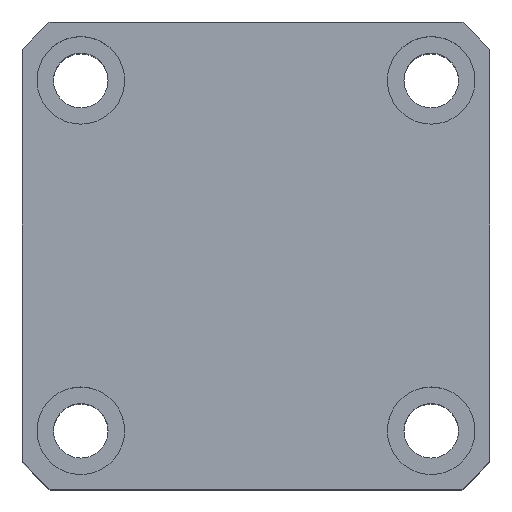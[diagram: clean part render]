
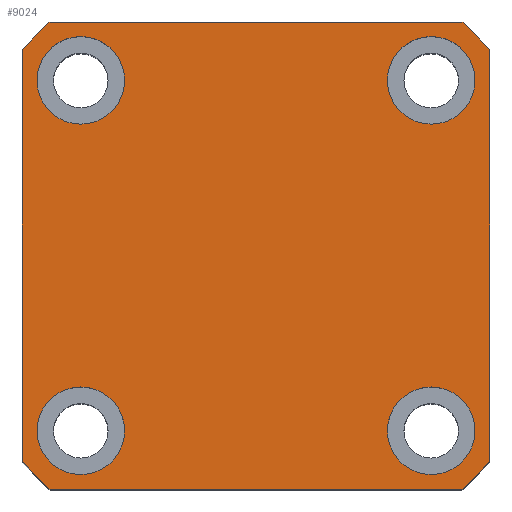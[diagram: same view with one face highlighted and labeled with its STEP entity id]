
A CAD part, top view. The second image highlights one B-rep face of the part: STEP entity #9024.
In plain terms, the highlighted planar face has unit normal (0, 0, 1) as drawn and (1, 0, 0) by its records, which use the part's own axes.
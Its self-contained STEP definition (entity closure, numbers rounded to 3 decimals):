
#69 = VERTEX_POINT ( 'NONE', #10242 ) ;
#72 = CIRCLE ( 'NONE', #5748, 4.5 ) ;
#92 = EDGE_CURVE ( 'NONE', #7762, #6521, #2167, .T. ) ;
#209 = AXIS2_PLACEMENT_3D ( 'NONE', #9196, #4284, #10005 ) ;
#271 = EDGE_LOOP ( 'NONE', ( #9950, #4427 ) ) ;
#365 = VECTOR ( 'NONE', #7859, 1000. ) ;
#441 = CARTESIAN_POINT ( 'NONE',  ( 50., -18., -13.5 ) ) ;
#490 = CIRCLE ( 'NONE', #2778, 32. ) ;
#515 = EDGE_CURVE ( 'NONE', #6655, #7973, #6895, .T. ) ;
#707 = DIRECTION ( 'NONE',  ( 0., 0., 1. ) ) ;
#738 = VECTOR ( 'NONE', #5298, 1000. ) ;
#769 = DIRECTION ( 'NONE',  ( 0., 0., -1. ) ) ;
#796 = CARTESIAN_POINT ( 'NONE',  ( 50., -18., -18. ) ) ;
#797 = DIRECTION ( 'NONE',  ( 1., 0., 0. ) ) ;
#952 = ORIENTED_EDGE ( 'NONE', *, *, #1209, .T. ) ;
#1010 = CARTESIAN_POINT ( 'NONE',  ( 50., 24., -21.166 ) ) ;
#1095 = CARTESIAN_POINT ( 'NONE',  ( 50., 24., 21.166 ) ) ;
#1119 = ORIENTED_EDGE ( 'NONE', *, *, #8934, .F. ) ;
#1152 = CARTESIAN_POINT ( 'NONE',  ( 50., 24., 24. ) ) ;
#1209 = EDGE_CURVE ( 'NONE', #5116, #6341, #4333, .T. ) ;
#1268 = CARTESIAN_POINT ( 'NONE',  ( 50., 21.166, 24. ) ) ;
#1333 = AXIS2_PLACEMENT_3D ( 'NONE', #1817, #7544, #2645 ) ;
#1388 = ORIENTED_EDGE ( 'NONE', *, *, #7484, .T. ) ;
#1404 = AXIS2_PLACEMENT_3D ( 'NONE', #796, #797, #769 ) ;
#1411 = ORIENTED_EDGE ( 'NONE', *, *, #8793, .T. ) ;
#1439 = CARTESIAN_POINT ( 'NONE',  ( 50., 24., -24. ) ) ;
#1514 = CARTESIAN_POINT ( 'NONE',  ( 50., -18., 13.5 ) ) ;
#1718 = ORIENTED_EDGE ( 'NONE', *, *, #5999, .T. ) ;
#1803 = DIRECTION ( 'NONE',  ( 1., 0., 0. ) ) ;
#1817 = CARTESIAN_POINT ( 'NONE',  ( 50., -18., 18. ) ) ;
#1914 = FACE_BOUND ( 'NONE', #3808, .T. ) ;
#1999 = VERTEX_POINT ( 'NONE', #1514 ) ;
#2128 = CARTESIAN_POINT ( 'NONE',  ( 50., 24., 24. ) ) ;
#2167 = LINE ( 'NONE', #1152, #8716 ) ;
#2449 = CIRCLE ( 'NONE', #1333, 4.5 ) ;
#2645 = DIRECTION ( 'NONE',  ( 0., 0., -1. ) ) ;
#2739 = PLANE ( 'NONE',  #3100 ) ;
#2778 = AXIS2_PLACEMENT_3D ( 'NONE', #4308, #10031, #5119 ) ;
#3100 = AXIS2_PLACEMENT_3D ( 'NONE', #8492, #3574, #9314 ) ;
#3133 = DIRECTION ( 'NONE',  ( 0., 1., 0. ) ) ;
#3215 = CARTESIAN_POINT ( 'NONE',  ( 50., 18., 18. ) ) ;
#3246 = ORIENTED_EDGE ( 'NONE', *, *, #4789, .F. ) ;
#3339 = EDGE_CURVE ( 'NONE', #10573, #6253, #5161, .T. ) ;
#3417 = DIRECTION ( 'NONE',  ( 1., 0., 0. ) ) ;
#3496 = CARTESIAN_POINT ( 'NONE',  ( 50., 18., -22.5 ) ) ;
#3555 = CARTESIAN_POINT ( 'NONE',  ( 50., 18., -18. ) ) ;
#3574 = DIRECTION ( 'NONE',  ( 1., 0., 0. ) ) ;
#3704 = DIRECTION ( 'NONE',  ( 1., 0., 0. ) ) ;
#3745 = EDGE_CURVE ( 'NONE', #6665, #5116, #9145, .T. ) ;
#3758 = ORIENTED_EDGE ( 'NONE', *, *, #3745, .T. ) ;
#3808 = EDGE_LOOP ( 'NONE', ( #6745, #5671 ) ) ;
#3883 = EDGE_CURVE ( 'NONE', #9354, #1999, #8899, .T. ) ;
#3902 = CARTESIAN_POINT ( 'NONE',  ( 50., -18., 22.5 ) ) ;
#4172 = DIRECTION ( 'NONE',  ( 0., 0., -1. ) ) ;
#4242 = VERTEX_POINT ( 'NONE', #9006 ) ;
#4284 = DIRECTION ( 'NONE',  ( 1., 0., 0. ) ) ;
#4297 = VERTEX_POINT ( 'NONE', #6558 ) ;
#4308 = CARTESIAN_POINT ( 'NONE',  ( 50., 0., 0. ) ) ;
#4333 = CIRCLE ( 'NONE', #5152, 32. ) ;
#4364 = ORIENTED_EDGE ( 'NONE', *, *, #5210, .T. ) ;
#4366 = FACE_BOUND ( 'NONE', #271, .T. ) ;
#4386 = DIRECTION ( 'NONE',  ( 0., 0., -1. ) ) ;
#4398 = VERTEX_POINT ( 'NONE', #8446 ) ;
#4427 = ORIENTED_EDGE ( 'NONE', *, *, #515, .F. ) ;
#4460 = ORIENTED_EDGE ( 'NONE', *, *, #92, .T. ) ;
#4518 = CIRCLE ( 'NONE', #209, 4.5 ) ;
#4617 = DIRECTION ( 'NONE',  ( 1., 0., 0. ) ) ;
#4730 = CARTESIAN_POINT ( 'NONE',  ( 50., -18., 18. ) ) ;
#4789 = EDGE_CURVE ( 'NONE', #69, #4398, #72, .T. ) ;
#4848 = AXIS2_PLACEMENT_3D ( 'NONE', #3555, #9297, #4386 ) ;
#5116 = VERTEX_POINT ( 'NONE', #5502 ) ;
#5119 = DIRECTION ( 'NONE',  ( 0., 0., -1. ) ) ;
#5122 = CIRCLE ( 'NONE', #7033, 32. ) ;
#5152 = AXIS2_PLACEMENT_3D ( 'NONE', #5595, #5560, #5522 ) ;
#5161 = CIRCLE ( 'NONE', #4848, 4.5 ) ;
#5210 = EDGE_CURVE ( 'NONE', #4297, #6085, #490, .T. ) ;
#5298 = DIRECTION ( 'NONE',  ( 0., 0., -1. ) ) ;
#5502 = CARTESIAN_POINT ( 'NONE',  ( 50., -21.166, 24. ) ) ;
#5522 = DIRECTION ( 'NONE',  ( 0., 0., -1. ) ) ;
#5560 = DIRECTION ( 'NONE',  ( 1., 0., 0. ) ) ;
#5566 = DIRECTION ( 'NONE',  ( 0., 0., -1. ) ) ;
#5595 = CARTESIAN_POINT ( 'NONE',  ( 50., 0., 0. ) ) ;
#5644 = AXIS2_PLACEMENT_3D ( 'NONE', #6723, #1803, #7531 ) ;
#5671 = ORIENTED_EDGE ( 'NONE', *, *, #9542, .F. ) ;
#5748 = AXIS2_PLACEMENT_3D ( 'NONE', #3215, #8959, #4172 ) ;
#5900 = EDGE_LOOP ( 'NONE', ( #3246, #6223 ) ) ;
#5999 = EDGE_CURVE ( 'NONE', #6341, #4297, #6802, .T. ) ;
#6015 = FACE_OUTER_BOUND ( 'NONE', #8541, .T. ) ;
#6085 = VERTEX_POINT ( 'NONE', #6104 ) ;
#6104 = CARTESIAN_POINT ( 'NONE',  ( 50., -21.166, -24. ) ) ;
#6136 = AXIS2_PLACEMENT_3D ( 'NONE', #4730, #10470, #5566 ) ;
#6223 = ORIENTED_EDGE ( 'NONE', *, *, #10485, .F. ) ;
#6253 = VERTEX_POINT ( 'NONE', #9029 ) ;
#6280 = FACE_BOUND ( 'NONE', #5900, .T. ) ;
#6341 = VERTEX_POINT ( 'NONE', #9125 ) ;
#6376 = EDGE_CURVE ( 'NONE', #7973, #6655, #4518, .T. ) ;
#6428 = LINE ( 'NONE', #1439, #10533 ) ;
#6521 = VERTEX_POINT ( 'NONE', #1095 ) ;
#6556 = CIRCLE ( 'NONE', #8552, 32. ) ;
#6558 = CARTESIAN_POINT ( 'NONE',  ( 50., -24., -21.166 ) ) ;
#6655 = VERTEX_POINT ( 'NONE', #441 ) ;
#6665 = VERTEX_POINT ( 'NONE', #1268 ) ;
#6723 = CARTESIAN_POINT ( 'NONE',  ( 50., 18., -18. ) ) ;
#6745 = ORIENTED_EDGE ( 'NONE', *, *, #3339, .F. ) ;
#6802 = LINE ( 'NONE', #10204, #738 ) ;
#6895 = CIRCLE ( 'NONE', #1404, 4.5 ) ;
#7033 = AXIS2_PLACEMENT_3D ( 'NONE', #9538, #4617, #10351 ) ;
#7381 = EDGE_LOOP ( 'NONE', ( #1119, #9773 ) ) ;
#7484 = EDGE_CURVE ( 'NONE', #6085, #4242, #6428, .T. ) ;
#7531 = DIRECTION ( 'NONE',  ( 0., 0., -1. ) ) ;
#7544 = DIRECTION ( 'NONE',  ( 1., 0., 0. ) ) ;
#7621 = ORIENTED_EDGE ( 'NONE', *, *, #7879, .T. ) ;
#7762 = VERTEX_POINT ( 'NONE', #1010 ) ;
#7829 = CIRCLE ( 'NONE', #10166, 4.5 ) ;
#7859 = DIRECTION ( 'NONE',  ( 0., -1., 0. ) ) ;
#7879 = EDGE_CURVE ( 'NONE', #4242, #7762, #6556, .T. ) ;
#7882 = CARTESIAN_POINT ( 'NONE',  ( 50., -18., -22.5 ) ) ;
#7973 = VERTEX_POINT ( 'NONE', #7882 ) ;
#8193 = FACE_BOUND ( 'NONE', #7381, .T. ) ;
#8327 = CARTESIAN_POINT ( 'NONE',  ( 50., 18., 18. ) ) ;
#8446 = CARTESIAN_POINT ( 'NONE',  ( 50., 18., 22.5 ) ) ;
#8492 = CARTESIAN_POINT ( 'NONE',  ( 50., 0., 0. ) ) ;
#8541 = EDGE_LOOP ( 'NONE', ( #1388, #7621, #4460, #1411, #3758, #952, #1718, #4364 ) ) ;
#8552 = AXIS2_PLACEMENT_3D ( 'NONE', #8615, #3704, #9437 ) ;
#8615 = CARTESIAN_POINT ( 'NONE',  ( 50., 0., 0. ) ) ;
#8716 = VECTOR ( 'NONE', #707, 1000. ) ;
#8793 = EDGE_CURVE ( 'NONE', #6521, #6665, #5122, .T. ) ;
#8899 = CIRCLE ( 'NONE', #6136, 4.5 ) ;
#8934 = EDGE_CURVE ( 'NONE', #1999, #9354, #2449, .T. ) ;
#8959 = DIRECTION ( 'NONE',  ( 1., 0., 0. ) ) ;
#9006 = CARTESIAN_POINT ( 'NONE',  ( 50., 21.166, -24. ) ) ;
#9024 = ADVANCED_FACE ( 'NONE', ( #4366, #8193, #1914, #6280, #6015 ), #2739, .T. ) ;
#9029 = CARTESIAN_POINT ( 'NONE',  ( 50., 18., -13.5 ) ) ;
#9125 = CARTESIAN_POINT ( 'NONE',  ( 50., -24., 21.166 ) ) ;
#9145 = LINE ( 'NONE', #2128, #365 ) ;
#9164 = DIRECTION ( 'NONE',  ( 0., 0., -1. ) ) ;
#9196 = CARTESIAN_POINT ( 'NONE',  ( 50., -18., -18. ) ) ;
#9297 = DIRECTION ( 'NONE',  ( 1., 0., 0. ) ) ;
#9314 = DIRECTION ( 'NONE',  ( 0., 0., -1. ) ) ;
#9354 = VERTEX_POINT ( 'NONE', #3902 ) ;
#9437 = DIRECTION ( 'NONE',  ( 0., 0., -1. ) ) ;
#9538 = CARTESIAN_POINT ( 'NONE',  ( 50., 0., 0. ) ) ;
#9542 = EDGE_CURVE ( 'NONE', #6253, #10573, #9982, .T. ) ;
#9773 = ORIENTED_EDGE ( 'NONE', *, *, #3883, .F. ) ;
#9950 = ORIENTED_EDGE ( 'NONE', *, *, #6376, .F. ) ;
#9982 = CIRCLE ( 'NONE', #5644, 4.5 ) ;
#10005 = DIRECTION ( 'NONE',  ( 0., 0., -1. ) ) ;
#10031 = DIRECTION ( 'NONE',  ( 1., 0., 0. ) ) ;
#10166 = AXIS2_PLACEMENT_3D ( 'NONE', #8327, #3417, #9164 ) ;
#10204 = CARTESIAN_POINT ( 'NONE',  ( 50., -24., 24. ) ) ;
#10242 = CARTESIAN_POINT ( 'NONE',  ( 50., 18., 13.5 ) ) ;
#10351 = DIRECTION ( 'NONE',  ( 0., 0., -1. ) ) ;
#10470 = DIRECTION ( 'NONE',  ( 1., 0., 0. ) ) ;
#10485 = EDGE_CURVE ( 'NONE', #4398, #69, #7829, .T. ) ;
#10533 = VECTOR ( 'NONE', #3133, 1000. ) ;
#10573 = VERTEX_POINT ( 'NONE', #3496 ) ;
